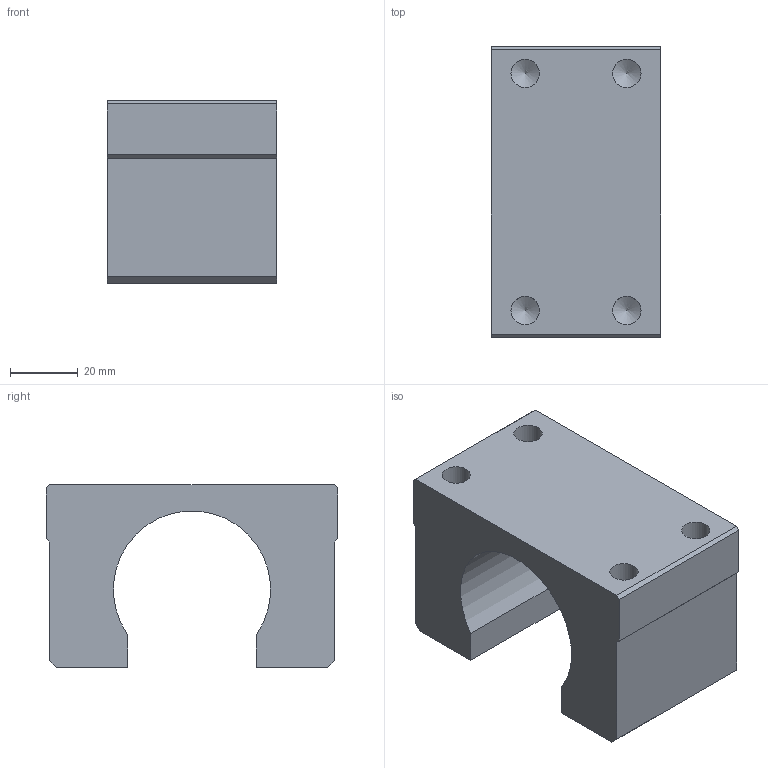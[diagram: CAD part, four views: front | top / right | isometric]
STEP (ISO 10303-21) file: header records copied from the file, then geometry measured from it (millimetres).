
FILE_DESCRIPTION((''),'2;1');
FILE_NAME('D:\製品 (図面)\カタログ用3D\ネジ関連\STEP形式\NH\NH20.stp','2010-06-02T14:39:40',('Tsuchiya'),(''),'Autodesk Inventor 10','Autodesk Inventor 10','');
FILE_SCHEMA(('AUTOMOTIVE_DESIGN { 1 0 10303 214 1 1 1 1 }'));
Length unit declared in the file: millimetre
Products named in the file (1): NH20
Bounding box: 50 x 86 x 54 mm (x, y, z)
Volume: 134801.4 mm3; surface area: 25364.3 mm2
Topology: 1 solids, 1 shells, 34 faces, 96 edges, 64 vertices
Faces by surface type: plane 17, bspline 16, cylinder 1
Entity records: 1105 total; most frequent: CARTESIAN_POINT 419, ORIENTED_EDGE 128, DIRECTION 120, EDGE_CURVE 64, EDGE_LOOP 50, VERTEX_POINT 48, VECTOR 46, LINE 46
